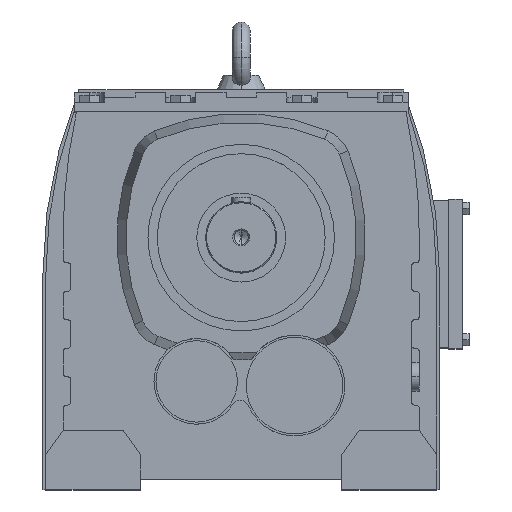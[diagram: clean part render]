
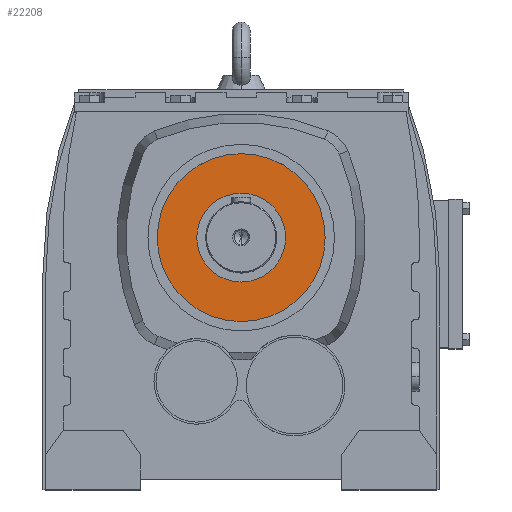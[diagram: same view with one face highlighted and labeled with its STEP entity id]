
A CAD part, top view. The second image highlights one B-rep face of the part: STEP entity #22208.
In plain terms, the highlighted planar face has unit normal (0, 0, 1).
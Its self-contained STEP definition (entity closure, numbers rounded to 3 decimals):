
#21015 = CYLINDRICAL_SURFACE('',#21016,141.75);
#21016 = AXIS2_PLACEMENT_3D('',#21017,#21018,#21019);
#21017 = CARTESIAN_POINT('',(0.,59.9,790.));
#21018 = DIRECTION('',(0.,0.,1.));
#21019 = DIRECTION('',(0.,-1.,0.));
#21045 = CYLINDRICAL_SURFACE('',#21046,141.75);
#21046 = AXIS2_PLACEMENT_3D('',#21047,#21048,#21049);
#21047 = CARTESIAN_POINT('',(0.,59.9,790.));
#21048 = DIRECTION('',(0.,0.,1.));
#21049 = DIRECTION('',(0.,-1.,0.));
#21970 = VERTEX_POINT('',#21971);
#21971 = CARTESIAN_POINT('',(0.,201.65,559.));
#21992 = VERTEX_POINT('',#21993);
#21993 = CARTESIAN_POINT('',(0.,-81.85,559.));
#22012 = EDGE_CURVE('',#21970,#21992,#22013,.T.);
#22013 = SURFACE_CURVE('',#22014,(#22019,#22025),.PCURVE_S1.);
#22014 = CIRCLE('',#22015,141.75);
#22015 = AXIS2_PLACEMENT_3D('',#22016,#22017,#22018);
#22016 = CARTESIAN_POINT('',(0.,59.9,559.));
#22017 = DIRECTION('',(0.,0.,-1.));
#22018 = DIRECTION('',(-1.,0.,0.));
#22019 = PCURVE('',#21015,#22020);
#22020 = DEFINITIONAL_REPRESENTATION('',(#22021),#22024);
#22021 = B_SPLINE_CURVE_WITH_KNOTS('',1,(#22022,#22023),.UNSPECIFIED.,
  .F.,.F.,(2,2),(1.571,4.712),
  .PIECEWISE_BEZIER_KNOTS.);
#22022 = CARTESIAN_POINT('',(3.142,-231.));
#22023 = CARTESIAN_POINT('',(0.,-231.));
#22024 = ( GEOMETRIC_REPRESENTATION_CONTEXT(2) 
PARAMETRIC_REPRESENTATION_CONTEXT() REPRESENTATION_CONTEXT('2D SPACE',''
  ) );
#22025 = PCURVE('',#22026,#22031);
#22026 = PLANE('',#22027);
#22027 = AXIS2_PLACEMENT_3D('',#22028,#22029,#22030);
#22028 = CARTESIAN_POINT('',(-61.146,37.046,559.));
#22029 = DIRECTION('',(0.,0.,-1.));
#22030 = DIRECTION('',(-1.,0.,0.));
#22031 = DEFINITIONAL_REPRESENTATION('',(#22032),#22036);
#22032 = CIRCLE('',#22033,141.75);
#22033 = AXIS2_PLACEMENT_2D('',#22034,#22035);
#22034 = CARTESIAN_POINT('',(-61.146,22.854));
#22035 = DIRECTION('',(1.,0.));
#22036 = ( GEOMETRIC_REPRESENTATION_CONTEXT(2) 
PARAMETRIC_REPRESENTATION_CONTEXT() REPRESENTATION_CONTEXT('2D SPACE',''
  ) );
#22041 = EDGE_CURVE('',#21992,#21970,#22042,.T.);
#22042 = SURFACE_CURVE('',#22043,(#22048,#22054),.PCURVE_S1.);
#22043 = CIRCLE('',#22044,141.75);
#22044 = AXIS2_PLACEMENT_3D('',#22045,#22046,#22047);
#22045 = CARTESIAN_POINT('',(0.,59.9,559.));
#22046 = DIRECTION('',(0.,0.,-1.));
#22047 = DIRECTION('',(-1.,0.,0.));
#22048 = PCURVE('',#21045,#22049);
#22049 = DEFINITIONAL_REPRESENTATION('',(#22050),#22053);
#22050 = B_SPLINE_CURVE_WITH_KNOTS('',1,(#22051,#22052),.UNSPECIFIED.,
  .F.,.F.,(2,2),(4.712,7.854),
  .PIECEWISE_BEZIER_KNOTS.);
#22051 = CARTESIAN_POINT('',(6.283,-231.));
#22052 = CARTESIAN_POINT('',(3.142,-231.));
#22053 = ( GEOMETRIC_REPRESENTATION_CONTEXT(2) 
PARAMETRIC_REPRESENTATION_CONTEXT() REPRESENTATION_CONTEXT('2D SPACE',''
  ) );
#22054 = PCURVE('',#22026,#22055);
#22055 = DEFINITIONAL_REPRESENTATION('',(#22056),#22060);
#22056 = CIRCLE('',#22057,141.75);
#22057 = AXIS2_PLACEMENT_2D('',#22058,#22059);
#22058 = CARTESIAN_POINT('',(-61.146,22.854));
#22059 = DIRECTION('',(1.,0.));
#22060 = ( GEOMETRIC_REPRESENTATION_CONTEXT(2) 
PARAMETRIC_REPRESENTATION_CONTEXT() REPRESENTATION_CONTEXT('2D SPACE',''
  ) );
#22208 = ADVANCED_FACE('',(#22209,#22213),#22026,.F.);
#22209 = FACE_BOUND('',#22210,.T.);
#22210 = EDGE_LOOP('',(#22211,#22212));
#22211 = ORIENTED_EDGE('',*,*,#22041,.F.);
#22212 = ORIENTED_EDGE('',*,*,#22012,.F.);
#22213 = FACE_BOUND('',#22214,.T.);
#22214 = EDGE_LOOP('',(#22215,#22249));
#22215 = ORIENTED_EDGE('',*,*,#22216,.F.);
#22216 = EDGE_CURVE('',#22217,#22219,#22221,.T.);
#22217 = VERTEX_POINT('',#22218);
#22218 = CARTESIAN_POINT('',(0.,-15.1,559.));
#22219 = VERTEX_POINT('',#22220);
#22220 = CARTESIAN_POINT('',(0.,134.9,559.));
#22221 = SURFACE_CURVE('',#22222,(#22227,#22238),.PCURVE_S1.);
#22222 = CIRCLE('',#22223,75.);
#22223 = AXIS2_PLACEMENT_3D('',#22224,#22225,#22226);
#22224 = CARTESIAN_POINT('',(0.,59.9,559.));
#22225 = DIRECTION('',(0.,0.,1.));
#22226 = DIRECTION('',(-1.,0.,0.));
#22227 = PCURVE('',#22026,#22228);
#22228 = DEFINITIONAL_REPRESENTATION('',(#22229),#22237);
#22229 = ( BOUNDED_CURVE() B_SPLINE_CURVE(2,(#22230,#22231,#22232,#22233
    ,#22234,#22235,#22236),.UNSPECIFIED.,.F.,.F.) 
B_SPLINE_CURVE_WITH_KNOTS((1,2,2,2,2,1),(-2.094,0.,
    2.094,4.189,6.283,8.378),
.UNSPECIFIED.) CURVE() GEOMETRIC_REPRESENTATION_ITEM() 
RATIONAL_B_SPLINE_CURVE((1.,0.5,1.,0.5,1.,0.5,1.)) REPRESENTATION_ITEM(
  '') );
#22230 = CARTESIAN_POINT('',(13.854,22.854));
#22231 = CARTESIAN_POINT('',(13.854,-107.05));
#22232 = CARTESIAN_POINT('',(-98.646,-42.098));
#22233 = CARTESIAN_POINT('',(-211.146,22.854));
#22234 = CARTESIAN_POINT('',(-98.646,87.806));
#22235 = CARTESIAN_POINT('',(13.854,152.758));
#22236 = CARTESIAN_POINT('',(13.854,22.854));
#22237 = ( GEOMETRIC_REPRESENTATION_CONTEXT(2) 
PARAMETRIC_REPRESENTATION_CONTEXT() REPRESENTATION_CONTEXT('2D SPACE',''
  ) );
#22238 = PCURVE('',#22239,#22244);
#22239 = CYLINDRICAL_SURFACE('',#22240,75.);
#22240 = AXIS2_PLACEMENT_3D('',#22241,#22242,#22243);
#22241 = CARTESIAN_POINT('',(0.,59.9,790.));
#22242 = DIRECTION('',(0.,0.,1.));
#22243 = DIRECTION('',(0.,-1.,0.));
#22244 = DEFINITIONAL_REPRESENTATION('',(#22245),#22248);
#22245 = B_SPLINE_CURVE_WITH_KNOTS('',1,(#22246,#22247),.UNSPECIFIED.,
  .F.,.F.,(2,2),(1.571,4.712),
  .PIECEWISE_BEZIER_KNOTS.);
#22246 = CARTESIAN_POINT('',(0.,-231.));
#22247 = CARTESIAN_POINT('',(3.142,-231.));
#22248 = ( GEOMETRIC_REPRESENTATION_CONTEXT(2) 
PARAMETRIC_REPRESENTATION_CONTEXT() REPRESENTATION_CONTEXT('2D SPACE',''
  ) );
#22249 = ORIENTED_EDGE('',*,*,#22250,.F.);
#22250 = EDGE_CURVE('',#22219,#22217,#22251,.T.);
#22251 = SURFACE_CURVE('',#22252,(#22257,#22268),.PCURVE_S1.);
#22252 = CIRCLE('',#22253,75.);
#22253 = AXIS2_PLACEMENT_3D('',#22254,#22255,#22256);
#22254 = CARTESIAN_POINT('',(0.,59.9,559.));
#22255 = DIRECTION('',(0.,0.,1.));
#22256 = DIRECTION('',(-1.,0.,0.));
#22257 = PCURVE('',#22026,#22258);
#22258 = DEFINITIONAL_REPRESENTATION('',(#22259),#22267);
#22259 = ( BOUNDED_CURVE() B_SPLINE_CURVE(2,(#22260,#22261,#22262,#22263
    ,#22264,#22265,#22266),.UNSPECIFIED.,.F.,.F.) 
B_SPLINE_CURVE_WITH_KNOTS((1,2,2,2,2,1),(-2.094,0.,
    2.094,4.189,6.283,8.378),
.UNSPECIFIED.) CURVE() GEOMETRIC_REPRESENTATION_ITEM() 
RATIONAL_B_SPLINE_CURVE((1.,0.5,1.,0.5,1.,0.5,1.)) REPRESENTATION_ITEM(
  '') );
#22260 = CARTESIAN_POINT('',(13.854,22.854));
#22261 = CARTESIAN_POINT('',(13.854,-107.05));
#22262 = CARTESIAN_POINT('',(-98.646,-42.098));
#22263 = CARTESIAN_POINT('',(-211.146,22.854));
#22264 = CARTESIAN_POINT('',(-98.646,87.806));
#22265 = CARTESIAN_POINT('',(13.854,152.758));
#22266 = CARTESIAN_POINT('',(13.854,22.854));
#22267 = ( GEOMETRIC_REPRESENTATION_CONTEXT(2) 
PARAMETRIC_REPRESENTATION_CONTEXT() REPRESENTATION_CONTEXT('2D SPACE',''
  ) );
#22268 = PCURVE('',#22269,#22274);
#22269 = CYLINDRICAL_SURFACE('',#22270,75.);
#22270 = AXIS2_PLACEMENT_3D('',#22271,#22272,#22273);
#22271 = CARTESIAN_POINT('',(0.,59.9,790.));
#22272 = DIRECTION('',(0.,0.,1.));
#22273 = DIRECTION('',(0.,-1.,0.));
#22274 = DEFINITIONAL_REPRESENTATION('',(#22275),#22278);
#22275 = B_SPLINE_CURVE_WITH_KNOTS('',1,(#22276,#22277),.UNSPECIFIED.,
  .F.,.F.,(2,2),(4.712,7.854),
  .PIECEWISE_BEZIER_KNOTS.);
#22276 = CARTESIAN_POINT('',(3.142,-231.));
#22277 = CARTESIAN_POINT('',(6.283,-231.));
#22278 = ( GEOMETRIC_REPRESENTATION_CONTEXT(2) 
PARAMETRIC_REPRESENTATION_CONTEXT() REPRESENTATION_CONTEXT('2D SPACE',''
  ) );
